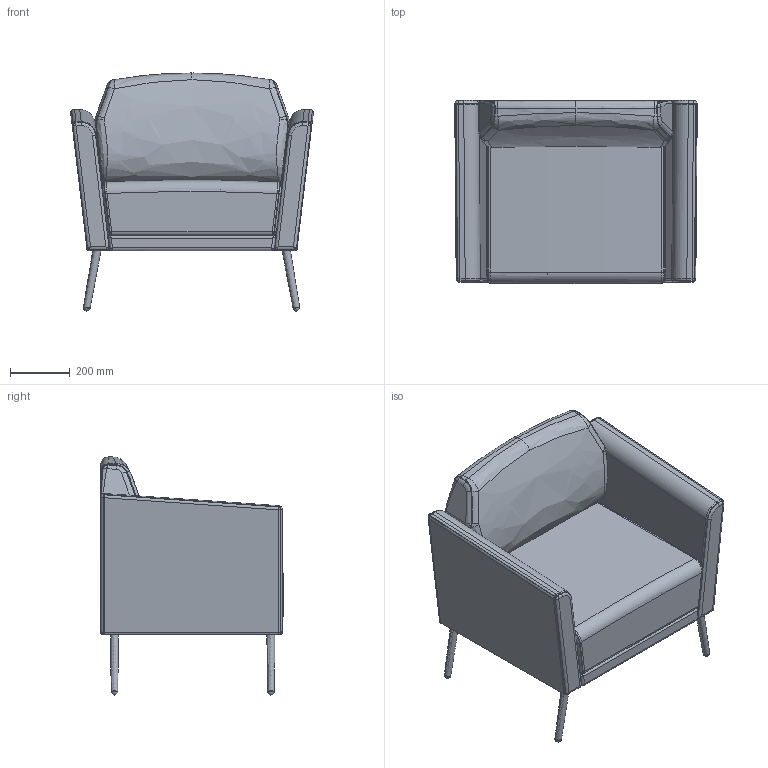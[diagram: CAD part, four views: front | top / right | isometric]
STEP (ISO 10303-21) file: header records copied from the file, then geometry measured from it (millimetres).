
FILE_DESCRIPTION(/* description */ (''),/* implementation_level */ '2;1');
FILE_NAME(/* name */ '2311_Metal.step',/* time_stamp */ '2026-07-28T15:17:05-07:00',/* author */ (''),/* organization */ (''),/* preprocessor_version */ 'ST-DEVELOPER v20.1',/* originating_system */ 'Autodesk Translation Framework v15.8.0.0',/* authorisation */ '');
FILE_SCHEMA (('AUTOMOTIVE_DESIGN { 1 0 10303 214 3 1 1 }'));
Length unit declared in the file: inch
Products named in the file (1): BREEZE Lounge High Back_Allmodels
Bounding box: 809.54 x 610.24 x 794.68 mm (x, y, z)
Volume: 150641219.5 mm3; surface area: 4884443.3 mm2
Topology: 21 solids, 21 shells, 470 faces, 1028 edges, 580 vertices
Faces by surface type: bspline 178, cylinder 140, plane 70, torus 46, sphere 28, cone 8
Entity records: 20680 total; most frequent: CARTESIAN_POINT 11333, ORIENTED_EDGE 2016, DIRECTION 1736, EDGE_CURVE 1008, AXIS2_PLACEMENT_3D 745, VERTEX_POINT 580, EDGE_LOOP 478, FACE_OUTER_BOUND 470
